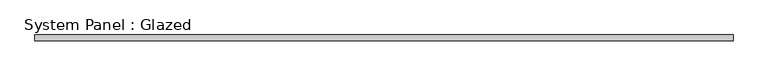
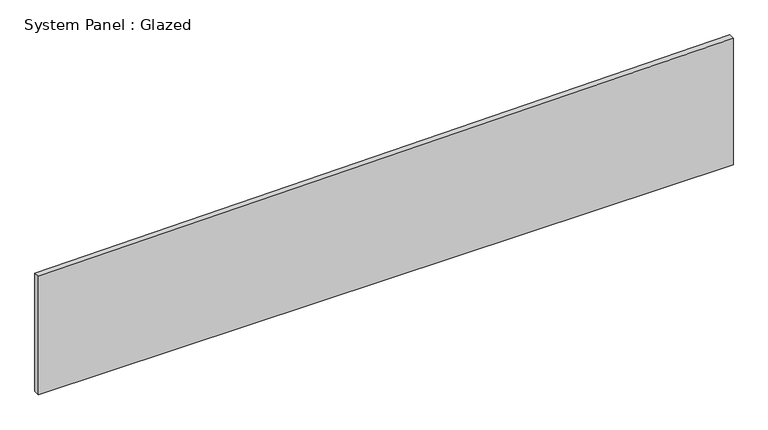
"""IFC4 building model written with IfcOpenShell, lengths in millimetres: plate geometry, System Panel : Glazed."""

from ifc_helpers import new_model, si_unit, frame, origin, place, context, project, spatial, polyline, outline, extrude, source, transform, mapped, element, save


def system_panel_glazed_8104afd5(model_context):
    return source(origin(), model_context, "Body", "SweptSolid", [
        extrude(outline(polyline([(0.0, -1504.95), (0.0, 1504.95), (578.9579593, 1504.95), (541.9630295, -1504.95), (0.0, -1504.95)])), frame((0.0, 19.05, 0.0), z_axis=(0.0, 1.0, 0.0), x_axis=(0.0, 0.0, 1.0)), (0.0, 0.0, 1.0), 25.4),
    ])


if __name__ == "__main__":
    model = new_model("IFC4")
    model_context = context("Model", 3, world=origin())
    ifc_project = project(units=[si_unit("LENGTHUNIT", "METRE", prefix="MILLI")], contexts=[model_context])
    site = spatial("IfcSite", under=ifc_project)
    building = spatial("IfcBuilding", under=site)
    placement = place(None, origin())
    system_panel_glazed_shape = system_panel_glazed_8104afd5(model_context)
    element("IfcPlate", 1, ObjectType="System Panel : Glazed", at=placement, inside=building, context=model_context, shape_type="MappedRepresentation", body=[
        mapped(system_panel_glazed_shape, transform((0.0, 0.0, 0.0), x_axis=(1.0, 0.0, 0.0), y_axis=(0.0, 1.0, 0.0), z_axis=(0.0, 0.0, 1.0))),
    ])
    save(model, "model.ifc")
